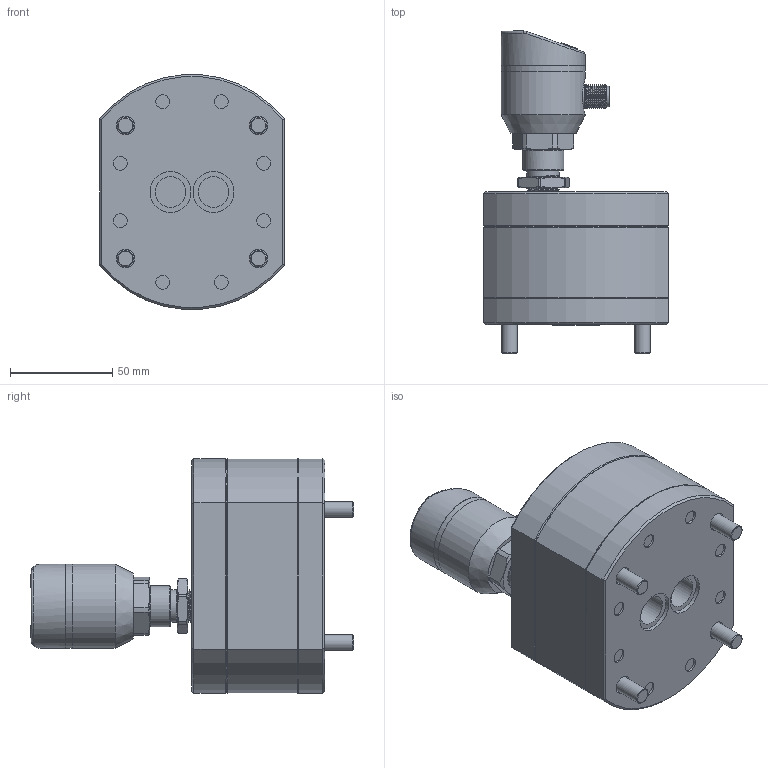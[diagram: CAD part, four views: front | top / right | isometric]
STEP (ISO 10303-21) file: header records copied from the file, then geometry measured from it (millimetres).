
FILE_DESCRIPTION( (''), '2;1');
FILE_NAME( 'QZKB_50L_M15.step', '2024-05-23T16:01:29+08:00', (''), (''), '', '', '');
FILE_SCHEMA (('AUTOMOTIVE_DESIGN { 1 0 10303 214 3 1 1 1 }'));
Length unit declared in the file: millimetre
Products named in the file (1): QZKB 50L_M15
Bounding box: 90 x 157.8 x 114.62 mm (x, y, z)
Volume: 603336.3 mm3; surface area: 154228.6 mm2
Topology: 19 solids, 21 shells, 887 faces, 1965 edges, 1184 vertices
Faces by surface type: plane 365, cylinder 229, cone 174, torus 63, bspline 46, sphere 6, extrusion 4
Full cylindrical faces by diameter (mm): 1 x5, 2.7 x4, 6 x12, 6.8 x8, 7.76 x12, 8.4 x1, 9 x28, 9.7 x1, 9.8 x1, 10.1 x1, 11.6 x1, 12 x2, 13 x12, 14 x12, 15 x2, 15.9 x1, 17 x1, 20 x3, 23 x3, 26 x4, 26.1 x1, 37 x1, 41 x3
Entity records: 41255 total; most frequent: CARTESIAN_POINT 21492, DIRECTION 3809, ORIENTED_EDGE 3318, EDGE_CURVE 1659, AXIS2_PLACEMENT_3D 1590, EDGE_LOOP 1254, VERTEX_POINT 1115, ADVANCED_FACE 884
